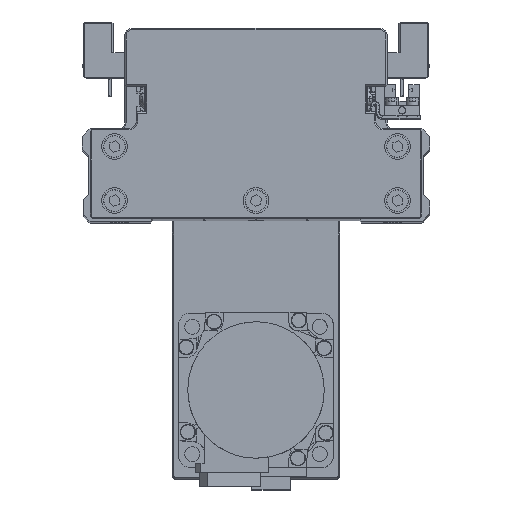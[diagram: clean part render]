
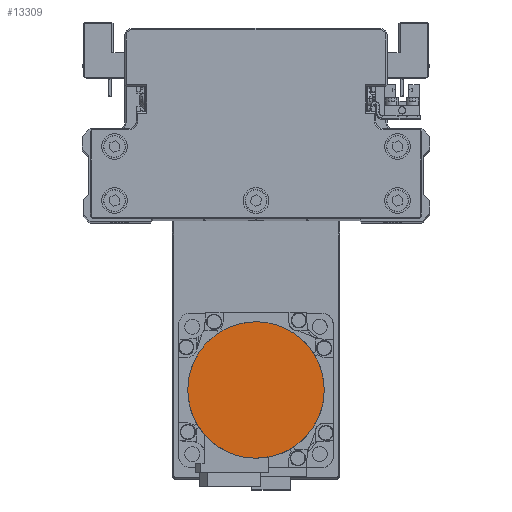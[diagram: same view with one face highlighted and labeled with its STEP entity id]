
A CAD part, top view. The second image highlights one B-rep face of the part: STEP entity #13309.
In plain terms, the highlighted planar face has unit normal (0, 0, 1) as drawn and (0, 0, -1) by its records, which use the part's own axes.
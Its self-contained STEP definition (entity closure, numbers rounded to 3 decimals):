
#1440 = CARTESIAN_POINT ( 'NONE',  ( -23.819, -11.744, -109.7 ) ) ;
#1494 = CARTESIAN_POINT ( 'NONE',  ( 26.5, 0., -109.7 ) ) ;
#1647 = CARTESIAN_POINT ( 'NONE',  ( 3.469, -26.329, -109.7 ) ) ;
#1692 = CARTESIAN_POINT ( 'NONE',  ( 8.539, 25.147, -109.7 ) ) ;
#1843 = CARTESIAN_POINT ( 'NONE',  ( 26.329, -3.469, -109.7 ) ) ;
#1884 = CARTESIAN_POINT ( 'NONE',  ( -21.07, 16.165, -109.7 ) ) ;
#3958 = EDGE_CURVE ( 'NONE', #21418, #23938, #13116, .T. ) ;
#4323 = DIRECTION ( 'NONE',  ( 0., 0., 1. ) ) ;
#4469 = CARTESIAN_POINT ( 'NONE',  ( -26.329, -3.469, -109.7 ) ) ;
#4669 = CARTESIAN_POINT ( 'NONE',  ( -3.469, -26.329, -109.7 ) ) ;
#4719 = CARTESIAN_POINT ( 'NONE',  ( 16.165, 21.07, -109.7 ) ) ;
#4723 = B_SPLINE_CURVE_WITH_KNOTS ( 'NONE', 3,
 ( #1494, #13820, #26175, #38534, #10788, #23131, #35494, #7749, #20090, #32461, #4719, #17063, #29427, #1692, #14023, #26375, #38728, #10986, #23320, #35696, #7955, #20298, #32662, #4921, #17262, #29620, #1884, #14212, #26562, #38919, #11189, #23530, #35899, #8156 ),
 .UNSPECIFIED., .F., .F.,
 ( 4, 2, 2, 2, 2, 2, 2, 2, 2, 2, 2, 2, 2, 2, 2, 2, 4 ),
 ( 0., 0.062, 0.125, 0.187, 0.25, 0.312, 0.375, 0.437, 0.5, 0.562, 0.625, 0.687, 0.75, 0.813, 0.875, 0.938, 1. ),
 .UNSPECIFIED. ) ;
#4876 = CARTESIAN_POINT ( 'NONE',  ( 23.819, -11.744, -109.7 ) ) ;
#4921 = CARTESIAN_POINT ( 'NONE',  ( -16.165, 21.07, -109.7 ) ) ;
#6599 = EDGE_CURVE ( 'NONE', #23938, #21418, #4723, .T. ) ;
#6903 = EDGE_LOOP ( 'NONE', ( #31414, #20328 ) ) ;
#7351 = FACE_OUTER_BOUND ( 'NONE', #6903, .T. ) ;
#7703 = CARTESIAN_POINT ( 'NONE',  ( -11.744, -23.819, -109.7 ) ) ;
#7749 = CARTESIAN_POINT ( 'NONE',  ( 21.07, 16.165, -109.7 ) ) ;
#7907 = CARTESIAN_POINT ( 'NONE',  ( 19.965, -17.512, -109.7 ) ) ;
#7955 = CARTESIAN_POINT ( 'NONE',  ( -8.539, 25.147, -109.7 ) ) ;
#8156 = CARTESIAN_POINT ( 'NONE',  ( -26.5, 0., -109.7 ) ) ;
#10743 = CARTESIAN_POINT ( 'NONE',  ( -17.512, -19.965, -109.7 ) ) ;
#10788 = CARTESIAN_POINT ( 'NONE',  ( 25.147, 8.539, -109.7 ) ) ;
#10944 = CARTESIAN_POINT ( 'NONE',  ( 13.28, -22.998, -109.7 ) ) ;
#10986 = CARTESIAN_POINT ( 'NONE',  ( -1.734, 26.5, -109.7 ) ) ;
#11189 = CARTESIAN_POINT ( 'NONE',  ( -25.652, 6.871, -109.7 ) ) ;
#13116 = B_SPLINE_CURVE_WITH_KNOTS ( 'NONE', 3,
 ( #19851, #32216, #4469, #16808, #29170, #1440, #13767, #26123, #38486, #10743, #23085, #35450, #7703, #20039, #32406, #4669, #17014, #29378, #1647, #13975, #26329, #38684, #10944, #23275, #35642, #7907, #20250, #32615, #4876, #17215, #29572, #1843, #14172, #26517 ),
 .UNSPECIFIED., .F., .F.,
 ( 4, 2, 2, 2, 2, 2, 2, 2, 2, 2, 2, 2, 2, 2, 2, 2, 4 ),
 ( 0., 0.063, 0.125, 0.188, 0.25, 0.312, 0.375, 0.437, 0.5, 0.562, 0.625, 0.687, 0.75, 0.813, 0.875, 0.938, 1. ),
 .UNSPECIFIED. ) ;
#13309 = ADVANCED_FACE ( 'NONE', ( #7351 ), #19702, .F. ) ;
#13767 = CARTESIAN_POINT ( 'NONE',  ( -22.998, -13.28, -109.7 ) ) ;
#13820 = CARTESIAN_POINT ( 'NONE',  ( 26.5, 1.734, -109.7 ) ) ;
#13975 = CARTESIAN_POINT ( 'NONE',  ( 6.871, -25.652, -109.7 ) ) ;
#14023 = CARTESIAN_POINT ( 'NONE',  ( 6.871, 25.652, -109.7 ) ) ;
#14172 = CARTESIAN_POINT ( 'NONE',  ( 26.5, -1.734, -109.7 ) ) ;
#14212 = CARTESIAN_POINT ( 'NONE',  ( -22.998, 13.28, -109.7 ) ) ;
#16666 = DIRECTION ( 'NONE',  ( 1., 0., 0. ) ) ;
#16808 = CARTESIAN_POINT ( 'NONE',  ( -25.652, -6.871, -109.7 ) ) ;
#17014 = CARTESIAN_POINT ( 'NONE',  ( -1.734, -26.5, -109.7 ) ) ;
#17063 = CARTESIAN_POINT ( 'NONE',  ( 13.28, 22.998, -109.7 ) ) ;
#17215 = CARTESIAN_POINT ( 'NONE',  ( 25.147, -8.539, -109.7 ) ) ;
#17262 = CARTESIAN_POINT ( 'NONE',  ( -17.512, 19.965, -109.7 ) ) ;
#17515 = CARTESIAN_POINT ( 'NONE',  ( -26.5, 0., -109.7 ) ) ;
#19702 = PLANE ( 'NONE',  #38998 ) ;
#19851 = CARTESIAN_POINT ( 'NONE',  ( -26.5, 0., -109.7 ) ) ;
#20039 = CARTESIAN_POINT ( 'NONE',  ( -8.539, -25.147, -109.7 ) ) ;
#20090 = CARTESIAN_POINT ( 'NONE',  ( 19.965, 17.512, -109.7 ) ) ;
#20250 = CARTESIAN_POINT ( 'NONE',  ( 21.07, -16.165, -109.7 ) ) ;
#20298 = CARTESIAN_POINT ( 'NONE',  ( -11.744, 23.819, -109.7 ) ) ;
#20328 = ORIENTED_EDGE ( 'NONE', *, *, #3958, .F. ) ;
#21418 = VERTEX_POINT ( 'NONE', #17515 ) ;
#23085 = CARTESIAN_POINT ( 'NONE',  ( -16.165, -21.07, -109.7 ) ) ;
#23131 = CARTESIAN_POINT ( 'NONE',  ( 23.819, 11.744, -109.7 ) ) ;
#23275 = CARTESIAN_POINT ( 'NONE',  ( 16.165, -21.07, -109.7 ) ) ;
#23320 = CARTESIAN_POINT ( 'NONE',  ( -3.469, 26.329, -109.7 ) ) ;
#23530 = CARTESIAN_POINT ( 'NONE',  ( -26.329, 3.469, -109.7 ) ) ;
#23938 = VERTEX_POINT ( 'NONE', #33979 ) ;
#26123 = CARTESIAN_POINT ( 'NONE',  ( -21.07, -16.165, -109.7 ) ) ;
#26175 = CARTESIAN_POINT ( 'NONE',  ( 26.329, 3.469, -109.7 ) ) ;
#26329 = CARTESIAN_POINT ( 'NONE',  ( 8.539, -25.147, -109.7 ) ) ;
#26375 = CARTESIAN_POINT ( 'NONE',  ( 3.469, 26.329, -109.7 ) ) ;
#26517 = CARTESIAN_POINT ( 'NONE',  ( 26.5, 0., -109.7 ) ) ;
#26562 = CARTESIAN_POINT ( 'NONE',  ( -23.819, 11.744, -109.7 ) ) ;
#29170 = CARTESIAN_POINT ( 'NONE',  ( -25.147, -8.539, -109.7 ) ) ;
#29378 = CARTESIAN_POINT ( 'NONE',  ( 1.734, -26.5, -109.7 ) ) ;
#29427 = CARTESIAN_POINT ( 'NONE',  ( 11.744, 23.819, -109.7 ) ) ;
#29572 = CARTESIAN_POINT ( 'NONE',  ( 25.652, -6.871, -109.7 ) ) ;
#29620 = CARTESIAN_POINT ( 'NONE',  ( -19.965, 17.512, -109.7 ) ) ;
#31414 = ORIENTED_EDGE ( 'NONE', *, *, #6599, .F. ) ;
#32062 = CARTESIAN_POINT ( 'NONE',  ( 0., 0., -109.7 ) ) ;
#32216 = CARTESIAN_POINT ( 'NONE',  ( -26.5, -1.734, -109.7 ) ) ;
#32406 = CARTESIAN_POINT ( 'NONE',  ( -6.871, -25.652, -109.7 ) ) ;
#32461 = CARTESIAN_POINT ( 'NONE',  ( 17.512, 19.965, -109.7 ) ) ;
#32615 = CARTESIAN_POINT ( 'NONE',  ( 22.998, -13.28, -109.7 ) ) ;
#32662 = CARTESIAN_POINT ( 'NONE',  ( -13.28, 22.998, -109.7 ) ) ;
#33979 = CARTESIAN_POINT ( 'NONE',  ( 26.5, 0., -109.7 ) ) ;
#35450 = CARTESIAN_POINT ( 'NONE',  ( -13.28, -22.998, -109.7 ) ) ;
#35494 = CARTESIAN_POINT ( 'NONE',  ( 22.998, 13.28, -109.7 ) ) ;
#35642 = CARTESIAN_POINT ( 'NONE',  ( 17.512, -19.965, -109.7 ) ) ;
#35696 = CARTESIAN_POINT ( 'NONE',  ( -6.871, 25.652, -109.7 ) ) ;
#35899 = CARTESIAN_POINT ( 'NONE',  ( -26.5, 1.734, -109.7 ) ) ;
#38486 = CARTESIAN_POINT ( 'NONE',  ( -19.965, -17.512, -109.7 ) ) ;
#38534 = CARTESIAN_POINT ( 'NONE',  ( 25.652, 6.871, -109.7 ) ) ;
#38684 = CARTESIAN_POINT ( 'NONE',  ( 11.744, -23.819, -109.7 ) ) ;
#38728 = CARTESIAN_POINT ( 'NONE',  ( 1.734, 26.5, -109.7 ) ) ;
#38919 = CARTESIAN_POINT ( 'NONE',  ( -25.147, 8.539, -109.7 ) ) ;
#38998 = AXIS2_PLACEMENT_3D ( 'NONE', #32062, #4323, #16666 ) ;
